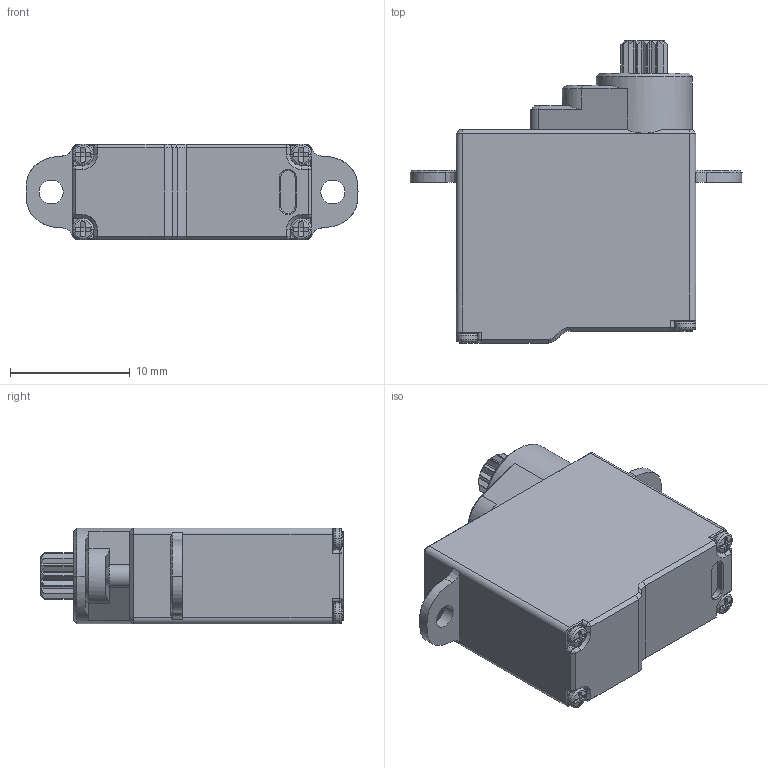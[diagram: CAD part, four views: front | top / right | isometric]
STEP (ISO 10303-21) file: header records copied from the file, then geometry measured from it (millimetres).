
FILE_DESCRIPTION((''),'2;1');
FILE_NAME('DDJ-3O7G-A06-15T','2023-11-24T',('Administrator'),(''),'PRO/ENGINEER BY PARAMETRIC TECHNOLOGY CORPORATION, 2010280','PRO/ENGINEER BY PARAMETRIC TECHNOLOGY CORPORATION, 2010280','');
FILE_SCHEMA(('CONFIG_CONTROL_DESIGN','SHAPE_APPEARANCE_LAYERS_GROUPS'));
Length unit declared in the file: millimetre
Products named in the file (1): DDJ-3O7G-A06-15T
Bounding box: 27.7 x 25.2 x 8 mm (x, y, z)
Volume: 3088.5 mm3; surface area: 1600.2 mm2
Topology: 1 solids, 1 shells, 408 faces, 1115 edges, 697 vertices
Faces by surface type: plane 173, cylinder 137, cone 49, bspline 25, torus 16, sphere 8
Entity records: 19334 total; most frequent: CARTESIAN_POINT 6063, ORIENTED_EDGE 2198, DIRECTION 1918, PRESENTATION_STYLE_ASSIGNMENT 1100, STYLED_ITEM 1100, CURVE_STYLE 1099, EDGE_CURVE 1099, VERTEX_POINT 697
